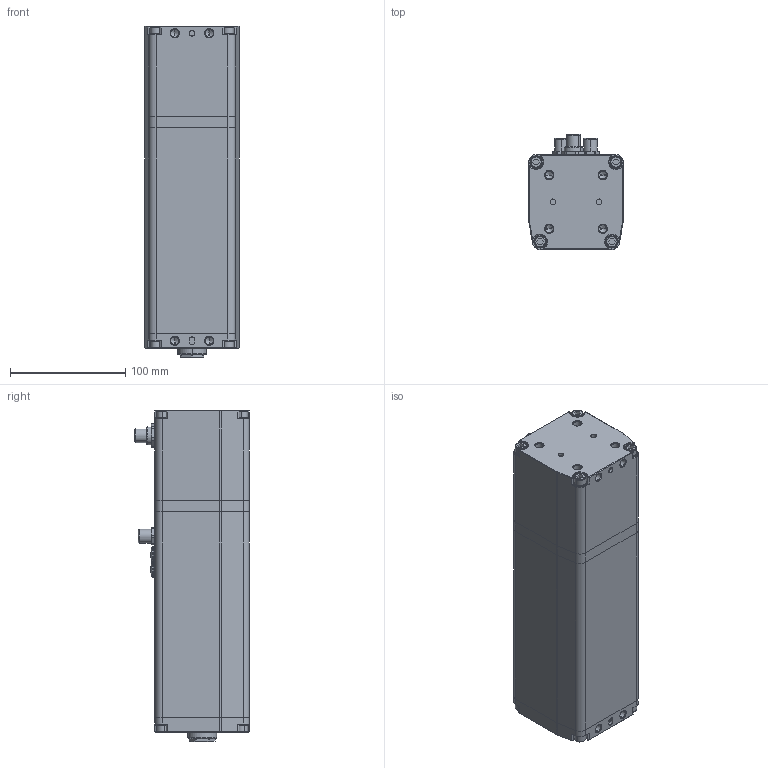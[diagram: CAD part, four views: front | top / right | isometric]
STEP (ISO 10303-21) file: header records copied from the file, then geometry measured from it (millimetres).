
FILE_DESCRIPTION (( 'STEP AP203' ), '1' );
FILE_NAME ('CTC-080-K__-____-_.step', '2023-09-29T10:07:07', ( '' ), ( '' ), 'SwSTEP 2.0', 'SolidWorks 2020', '' );
FILE_SCHEMA (( 'CONFIG_CONTROL_DESIGN' ));
Length unit declared in the file: millimetre
Products named in the file (4): CTC-080_Schubrohr_Hub 0100; CTC-080_Aufsatz-I_M10; CTC-080_housing_Hub_0100_Bremse; CTC-080-K__-____-_
Assembly tree (3 placements, depth 2):
  CTC-080-K__-____-_
    CTC-080_housing_Hub_0100_Bremse
    CTC-080_Schubrohr_Hub 0100
    CTC-080_Aufsatz-I_M10
Bounding box: 82 x 99.6 x 287 mm (x, y, z)
Volume: 1739349.9 mm3; surface area: 222317.4 mm2
Topology: 34 solids, 34 shells, 858 faces, 1912 edges, 1186 vertices
Faces by surface type: cylinder 338, plane 326, cone 102, torus 84, sphere 8
Entity records: 24154 total; most frequent: DIRECTION 4470, CARTESIAN_POINT 4156, ORIENTED_EDGE 3772, EDGE_CURVE 1886, AXIS2_PLACEMENT_3D 1768, VERTEX_POINT 1186, EDGE_LOOP 956, LINE 934
